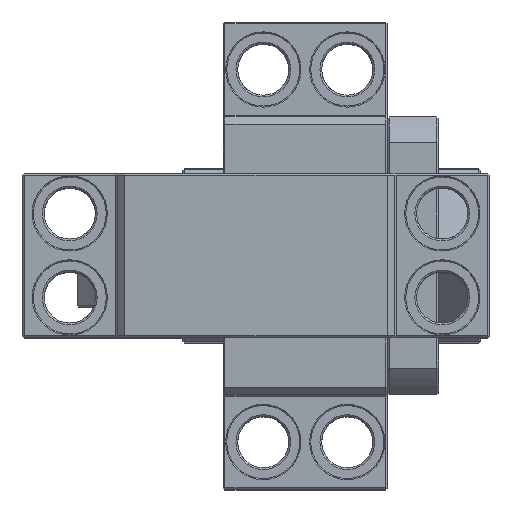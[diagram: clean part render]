
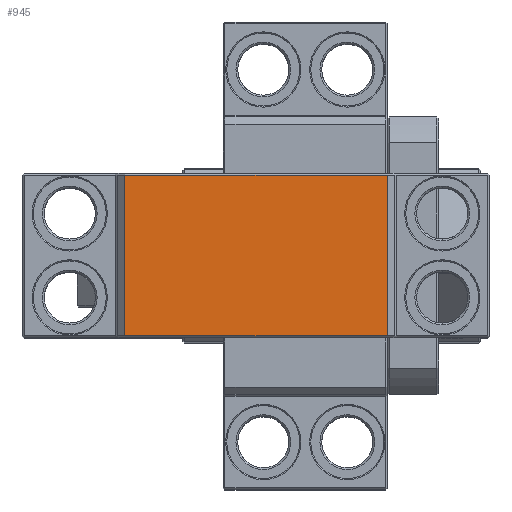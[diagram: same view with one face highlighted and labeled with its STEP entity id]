
A CAD part, top view. The second image highlights one B-rep face of the part: STEP entity #945.
In plain terms, the highlighted planar face has unit normal (0, 0, 1).
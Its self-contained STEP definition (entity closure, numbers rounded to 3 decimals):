
#945 = ADVANCED_FACE( '', ( #2230 ), #2231, .T. );
#2230 = FACE_OUTER_BOUND( '', #3909, .T. );
#2231 = PLANE( '', #3910 );
#3909 = EDGE_LOOP( '', ( #7950, #7951, #7952, #7953 ) );
#3910 = AXIS2_PLACEMENT_3D( '', #7954, #7955, #7956 );
#7950 = ORIENTED_EDGE( '', *, *, #11360, .T. );
#7951 = ORIENTED_EDGE( '', *, *, #11336, .T. );
#7952 = ORIENTED_EDGE( '', *, *, #11361, .T. );
#7953 = ORIENTED_EDGE( '', *, *, #11362, .T. );
#7954 = CARTESIAN_POINT( '', ( 0., -22.5, 89. ) );
#7955 = DIRECTION( '', ( 0., 0., 1. ) );
#7956 = DIRECTION( '', ( 1., 0., 0. ) );
#11336 = EDGE_CURVE( '', #13810, #13807, #13812, .T. );
#11360 = EDGE_CURVE( '', #13844, #13810, #13845, .T. );
#11361 = EDGE_CURVE( '', #13807, #12579, #13846, .T. );
#11362 = EDGE_CURVE( '', #12579, #13844, #13847, .T. );
#12579 = VERTEX_POINT( '', #16484 );
#13807 = VERTEX_POINT( '', #18216 );
#13810 = VERTEX_POINT( '', #18221 );
#13812 = LINE( '', #18224, #18225 );
#13844 = VERTEX_POINT( '', #18280 );
#13845 = LINE( '', #18281, #18282 );
#13846 = LINE( '', #18283, #18284 );
#13847 = LINE( '', #18285, #18286 );
#16484 = CARTESIAN_POINT( '', ( -36., -22., 89. ) );
#18216 = CARTESIAN_POINT( '', ( -36., 22., 89. ) );
#18221 = CARTESIAN_POINT( '', ( 36., 22., 89. ) );
#18224 = CARTESIAN_POINT( '', ( 0., 22., 89. ) );
#18225 = VECTOR( '', #22357, 1000. );
#18280 = CARTESIAN_POINT( '', ( 36., -22., 89. ) );
#18281 = CARTESIAN_POINT( '', ( 36., -22.5, 89. ) );
#18282 = VECTOR( '', #22381, 1000. );
#18283 = CARTESIAN_POINT( '', ( -36., -22.5, 89. ) );
#18284 = VECTOR( '', #22382, 1000. );
#18285 = CARTESIAN_POINT( '', ( 36., -22., 89. ) );
#18286 = VECTOR( '', #22383, 1000. );
#22357 = DIRECTION( '', ( -1., 0., 0. ) );
#22381 = DIRECTION( '', ( 0., 1., 0. ) );
#22382 = DIRECTION( '', ( 0., -1., 0. ) );
#22383 = DIRECTION( '', ( 1., 0., 0. ) );
